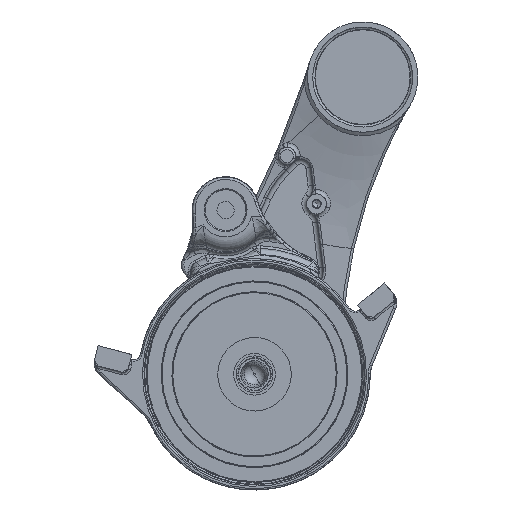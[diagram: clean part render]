
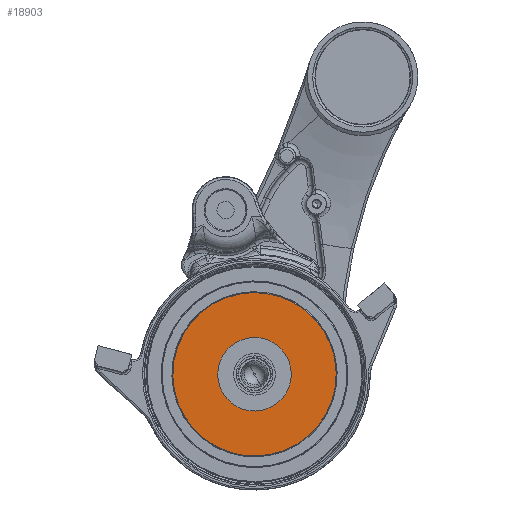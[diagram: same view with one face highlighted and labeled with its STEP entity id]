
A CAD part, front view. The second image highlights one B-rep face of the part: STEP entity #18903.
In plain terms, the highlighted planar face has unit normal (0, -1, 0).
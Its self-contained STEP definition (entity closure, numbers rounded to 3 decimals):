
#17820=AXIS2_PLACEMENT_3D('Circle Axis2P3D',#17818,#17819,$) ;
#17837=AXIS2_PLACEMENT_3D('Circle Axis2P3D',#17835,#17836,$) ;
#18849=AXIS2_PLACEMENT_3D('Circle Axis2P3D',#18847,#18848,$) ;
#18875=AXIS2_PLACEMENT_3D('Circle Axis2P3D',#18873,#18874,$) ;
#18893=AXIS2_PLACEMENT_3D('Plane Axis2P3D',#18890,#18891,#18892) ;
#17799=CARTESIAN_POINT('Vertex',(596.235,-617.5,2740.111)) ;
#17815=CARTESIAN_POINT('Vertex',(303.765,-617.5,2899.889)) ;
#17818=CARTESIAN_POINT('Axis2P3D Location',(450.,-617.5,2820.)) ;
#17835=CARTESIAN_POINT('Axis2P3D Location',(450.,-617.5,2820.)) ;
#18844=CARTESIAN_POINT('Vertex',(515.819,-617.5,2784.043)) ;
#18847=CARTESIAN_POINT('Axis2P3D Location',(450.,-617.5,2820.)) ;
#18851=CARTESIAN_POINT('Vertex',(384.181,-617.5,2855.957)) ;
#18873=CARTESIAN_POINT('Axis2P3D Location',(450.,-617.5,2820.)) ;
#18890=CARTESIAN_POINT('Axis2P3D Location',(375.,-617.5,2820.)) ;
#17819=DIRECTION('Axis2P3D Direction',(0.,1.,0.)) ;
#17836=DIRECTION('Axis2P3D Direction',(0.,1.,0.)) ;
#18848=DIRECTION('Axis2P3D Direction',(0.,1.,0.)) ;
#18874=DIRECTION('Axis2P3D Direction',(0.,1.,0.)) ;
#18891=DIRECTION('Axis2P3D Direction',(0.,1.,0.)) ;
#18892=DIRECTION('Axis2P3D XDirection',(1.,0.,0.)) ;
#18896=ORIENTED_EDGE('',*,*,#17822,.F.) ;
#18897=ORIENTED_EDGE('',*,*,#17839,.F.) ;
#18900=ORIENTED_EDGE('',*,*,#18877,.T.) ;
#18901=ORIENTED_EDGE('',*,*,#18853,.T.) ;
#18902=FACE_BOUND('',#18899,.T.) ;
#18903=ADVANCED_FACE('RV-1500E.1\\\X2\FF8AFF9FFF70FF82\X0\ \X2\FF8EFF9EFF83FF9EFF68FF70\X0\',(#18898,#18902),#18894,.F.) ;
#17821=CIRCLE('generated circle',#17820,166.634) ;
#17838=CIRCLE('generated circle',#17837,166.634) ;
#18850=CIRCLE('generated circle',#18849,75.) ;
#18876=CIRCLE('generated circle',#18875,75.) ;
#17822=EDGE_CURVE('',#17816,#17800,#17821,.T.) ;
#17839=EDGE_CURVE('',#17800,#17816,#17838,.T.) ;
#18853=EDGE_CURVE('',#18852,#18845,#18850,.T.) ;
#18877=EDGE_CURVE('',#18845,#18852,#18876,.T.) ;
#18895=EDGE_LOOP('',(#18896,#18897)) ;
#18899=EDGE_LOOP('',(#18900,#18901)) ;
#18898=FACE_OUTER_BOUND('',#18895,.T.) ;
#18894=PLANE('',#18893) ;
#17800=VERTEX_POINT('',#17799) ;
#17816=VERTEX_POINT('',#17815) ;
#18845=VERTEX_POINT('',#18844) ;
#18852=VERTEX_POINT('',#18851) ;
